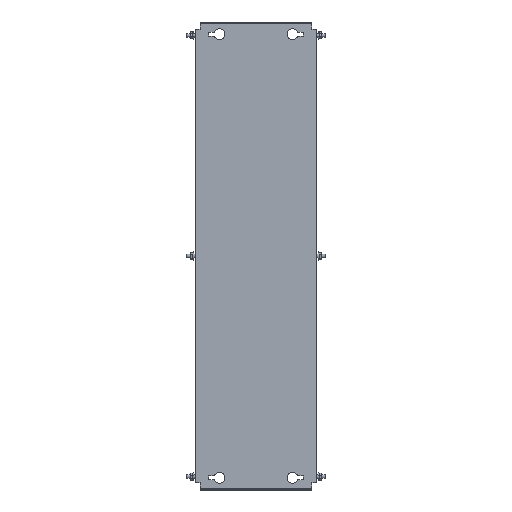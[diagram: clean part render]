
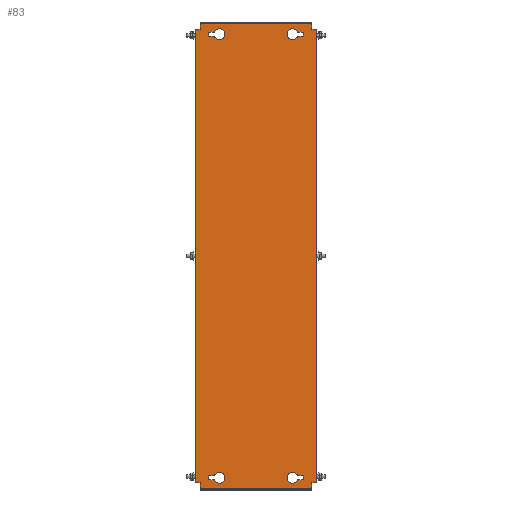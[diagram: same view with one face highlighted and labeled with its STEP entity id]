
A CAD part, top view. The second image highlights one B-rep face of the part: STEP entity #83.
In plain terms, the highlighted planar face has unit normal (0, 0, 1).
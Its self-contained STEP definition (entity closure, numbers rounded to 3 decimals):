
#83 = ADVANCED_FACE('',(#84,#119,#154,#316,#351),#386,.T.);
#84 = FACE_BOUND('',#85,.T.);
#85 = EDGE_LOOP('',(#86,#96,#104,#112));
#86 = ORIENTED_EDGE('',*,*,#87,.T.);
#87 = EDGE_CURVE('',#88,#90,#92,.T.);
#88 = VERTEX_POINT('',#89);
#89 = CARTESIAN_POINT('',(68.393,367.75,2.));
#90 = VERTEX_POINT('',#91);
#91 = CARTESIAN_POINT('',(78.,367.75,2.));
#92 = LINE('',#93,#94);
#93 = CARTESIAN_POINT('',(77.,367.75,2.));
#94 = VECTOR('',#95,1.);
#95 = DIRECTION('',(1.,0.,0.));
#96 = ORIENTED_EDGE('',*,*,#97,.T.);
#97 = EDGE_CURVE('',#90,#98,#100,.T.);
#98 = VERTEX_POINT('',#99);
#99 = CARTESIAN_POINT('',(78.,361.25,2.));
#100 = LINE('',#101,#102);
#101 = CARTESIAN_POINT('',(78.,367.75,2.));
#102 = VECTOR('',#103,1.);
#103 = DIRECTION('',(0.,-1.,0.));
#104 = ORIENTED_EDGE('',*,*,#105,.T.);
#105 = EDGE_CURVE('',#98,#106,#108,.T.);
#106 = VERTEX_POINT('',#107);
#107 = CARTESIAN_POINT('',(68.393,361.25,2.));
#108 = LINE('',#109,#110);
#109 = CARTESIAN_POINT('',(77.,361.25,2.));
#110 = VECTOR('',#111,1.);
#111 = DIRECTION('',(-1.,0.,0.));
#112 = ORIENTED_EDGE('',*,*,#113,.T.);
#113 = EDGE_CURVE('',#106,#88,#114,.T.);
#114 = CIRCLE('',#115,9.);
#115 = AXIS2_PLACEMENT_3D('',#116,#117,#118);
#116 = CARTESIAN_POINT('',(60.,364.5,2.));
#117 = DIRECTION('',(0.,0.,-1.));
#118 = DIRECTION('',(1.,0.,0.));
#119 = FACE_BOUND('',#120,.T.);
#120 = EDGE_LOOP('',(#121,#131,#139,#147));
#121 = ORIENTED_EDGE('',*,*,#122,.T.);
#122 = EDGE_CURVE('',#123,#125,#127,.T.);
#123 = VERTEX_POINT('',#124);
#124 = CARTESIAN_POINT('',(-68.393,-367.75,2.));
#125 = VERTEX_POINT('',#126);
#126 = CARTESIAN_POINT('',(-78.,-367.75,2.));
#127 = LINE('',#128,#129);
#128 = CARTESIAN_POINT('',(-77.,-367.75,2.));
#129 = VECTOR('',#130,1.);
#130 = DIRECTION('',(-1.,0.,0.));
#131 = ORIENTED_EDGE('',*,*,#132,.T.);
#132 = EDGE_CURVE('',#125,#133,#135,.T.);
#133 = VERTEX_POINT('',#134);
#134 = CARTESIAN_POINT('',(-78.,-361.25,2.));
#135 = LINE('',#136,#137);
#136 = CARTESIAN_POINT('',(-78.,-367.75,2.));
#137 = VECTOR('',#138,1.);
#138 = DIRECTION('',(0.,1.,0.));
#139 = ORIENTED_EDGE('',*,*,#140,.T.);
#140 = EDGE_CURVE('',#133,#141,#143,.T.);
#141 = VERTEX_POINT('',#142);
#142 = CARTESIAN_POINT('',(-68.393,-361.25,2.));
#143 = LINE('',#144,#145);
#144 = CARTESIAN_POINT('',(-77.,-361.25,2.));
#145 = VECTOR('',#146,1.);
#146 = DIRECTION('',(1.,-0.,-0.));
#147 = ORIENTED_EDGE('',*,*,#148,.T.);
#148 = EDGE_CURVE('',#141,#123,#149,.T.);
#149 = CIRCLE('',#150,9.);
#150 = AXIS2_PLACEMENT_3D('',#151,#152,#153);
#151 = CARTESIAN_POINT('',(-60.,-364.5,2.));
#152 = DIRECTION('',(0.,0.,-1.));
#153 = DIRECTION('',(-1.,0.,0.));
#154 = FACE_BOUND('',#155,.T.);
#155 = EDGE_LOOP('',(#156,#166,#174,#182,#190,#198,#206,#214,#222,#230,
    #238,#246,#254,#262,#270,#278,#286,#294,#302,#310));
#156 = ORIENTED_EDGE('',*,*,#157,.F.);
#157 = EDGE_CURVE('',#158,#160,#162,.T.);
#158 = VERTEX_POINT('',#159);
#159 = CARTESIAN_POINT('',(-97.4,372.5,2.));
#160 = VERTEX_POINT('',#161);
#161 = CARTESIAN_POINT('',(-92.,372.5,2.));
#162 = LINE('',#163,#164);
#163 = CARTESIAN_POINT('',(-98.,372.5,2.));
#164 = VECTOR('',#165,1.);
#165 = DIRECTION('',(1.,0.,-0.));
#166 = ORIENTED_EDGE('',*,*,#167,.T.);
#167 = EDGE_CURVE('',#158,#168,#170,.T.);
#168 = VERTEX_POINT('',#169);
#169 = CARTESIAN_POINT('',(-100.,372.5,2.));
#170 = LINE('',#171,#172);
#171 = CARTESIAN_POINT('',(-97.4,372.5,2.));
#172 = VECTOR('',#173,1.);
#173 = DIRECTION('',(-1.,0.,0.));
#174 = ORIENTED_EDGE('',*,*,#175,.F.);
#175 = EDGE_CURVE('',#176,#168,#178,.T.);
#176 = VERTEX_POINT('',#177);
#177 = CARTESIAN_POINT('',(-100.,-372.5,2.));
#178 = LINE('',#179,#180);
#179 = CARTESIAN_POINT('',(-100.,-382.5,2.));
#180 = VECTOR('',#181,1.);
#181 = DIRECTION('',(0.,1.,-0.));
#182 = ORIENTED_EDGE('',*,*,#183,.F.);
#183 = EDGE_CURVE('',#184,#176,#186,.T.);
#184 = VERTEX_POINT('',#185);
#185 = CARTESIAN_POINT('',(-97.4,-372.5,2.));
#186 = LINE('',#187,#188);
#187 = CARTESIAN_POINT('',(-92.,-372.5,2.));
#188 = VECTOR('',#189,1.);
#189 = DIRECTION('',(-1.,-0.,-0.));
#190 = ORIENTED_EDGE('',*,*,#191,.T.);
#191 = EDGE_CURVE('',#184,#192,#194,.T.);
#192 = VERTEX_POINT('',#193);
#193 = CARTESIAN_POINT('',(-92.,-372.5,2.));
#194 = LINE('',#195,#196);
#195 = CARTESIAN_POINT('',(-98.,-372.5,2.));
#196 = VECTOR('',#197,1.);
#197 = DIRECTION('',(1.,0.,-0.));
#198 = ORIENTED_EDGE('',*,*,#199,.T.);
#199 = EDGE_CURVE('',#192,#200,#202,.T.);
#200 = VERTEX_POINT('',#201);
#201 = CARTESIAN_POINT('',(-92.,-381.9,2.));
#202 = LINE('',#203,#204);
#203 = CARTESIAN_POINT('',(-92.,382.5,2.));
#204 = VECTOR('',#205,1.);
#205 = DIRECTION('',(0.,-1.,0.));
#206 = ORIENTED_EDGE('',*,*,#207,.T.);
#207 = EDGE_CURVE('',#200,#208,#210,.T.);
#208 = VERTEX_POINT('',#209);
#209 = CARTESIAN_POINT('',(-92.,-382.5,2.));
#210 = LINE('',#211,#212);
#211 = CARTESIAN_POINT('',(-92.,-381.9,2.));
#212 = VECTOR('',#213,1.);
#213 = DIRECTION('',(-0.,-1.,-0.));
#214 = ORIENTED_EDGE('',*,*,#215,.T.);
#215 = EDGE_CURVE('',#208,#216,#218,.T.);
#216 = VERTEX_POINT('',#217);
#217 = CARTESIAN_POINT('',(92.,-382.5,2.));
#218 = LINE('',#219,#220);
#219 = CARTESIAN_POINT('',(92.,-382.5,2.));
#220 = VECTOR('',#221,1.);
#221 = DIRECTION('',(1.,0.,0.));
#222 = ORIENTED_EDGE('',*,*,#223,.F.);
#223 = EDGE_CURVE('',#224,#216,#226,.T.);
#224 = VERTEX_POINT('',#225);
#225 = CARTESIAN_POINT('',(92.,-381.9,2.));
#226 = LINE('',#227,#228);
#227 = CARTESIAN_POINT('',(92.,-382.5,2.));
#228 = VECTOR('',#229,1.);
#229 = DIRECTION('',(0.,-1.,0.));
#230 = ORIENTED_EDGE('',*,*,#231,.T.);
#231 = EDGE_CURVE('',#224,#232,#234,.T.);
#232 = VERTEX_POINT('',#233);
#233 = CARTESIAN_POINT('',(92.,-372.5,2.));
#234 = LINE('',#235,#236);
#235 = CARTESIAN_POINT('',(92.,382.5,2.));
#236 = VECTOR('',#237,1.);
#237 = DIRECTION('',(0.,1.,-0.));
#238 = ORIENTED_EDGE('',*,*,#239,.F.);
#239 = EDGE_CURVE('',#240,#232,#242,.T.);
#240 = VERTEX_POINT('',#241);
#241 = CARTESIAN_POINT('',(97.4,-372.5,2.));
#242 = LINE('',#243,#244);
#243 = CARTESIAN_POINT('',(98.,-372.5,2.));
#244 = VECTOR('',#245,1.);
#245 = DIRECTION('',(-1.,0.,-0.));
#246 = ORIENTED_EDGE('',*,*,#247,.T.);
#247 = EDGE_CURVE('',#240,#248,#250,.T.);
#248 = VERTEX_POINT('',#249);
#249 = CARTESIAN_POINT('',(100.,-372.5,2.));
#250 = LINE('',#251,#252);
#251 = CARTESIAN_POINT('',(97.4,-372.5,2.));
#252 = VECTOR('',#253,1.);
#253 = DIRECTION('',(1.,0.,0.));
#254 = ORIENTED_EDGE('',*,*,#255,.F.);
#255 = EDGE_CURVE('',#256,#248,#258,.T.);
#256 = VERTEX_POINT('',#257);
#257 = CARTESIAN_POINT('',(100.,372.5,2.));
#258 = LINE('',#259,#260);
#259 = CARTESIAN_POINT('',(100.,-382.5,2.));
#260 = VECTOR('',#261,1.);
#261 = DIRECTION('',(0.,-1.,-0.));
#262 = ORIENTED_EDGE('',*,*,#263,.F.);
#263 = EDGE_CURVE('',#264,#256,#266,.T.);
#264 = VERTEX_POINT('',#265);
#265 = CARTESIAN_POINT('',(97.4,372.5,2.));
#266 = LINE('',#267,#268);
#267 = CARTESIAN_POINT('',(-92.,372.5,2.));
#268 = VECTOR('',#269,1.);
#269 = DIRECTION('',(1.,-0.,-0.));
#270 = ORIENTED_EDGE('',*,*,#271,.T.);
#271 = EDGE_CURVE('',#264,#272,#274,.T.);
#272 = VERTEX_POINT('',#273);
#273 = CARTESIAN_POINT('',(92.,372.5,2.));
#274 = LINE('',#275,#276);
#275 = CARTESIAN_POINT('',(98.,372.5,2.));
#276 = VECTOR('',#277,1.);
#277 = DIRECTION('',(-1.,0.,-0.));
#278 = ORIENTED_EDGE('',*,*,#279,.T.);
#279 = EDGE_CURVE('',#272,#280,#282,.T.);
#280 = VERTEX_POINT('',#281);
#281 = CARTESIAN_POINT('',(92.,381.9,2.));
#282 = LINE('',#283,#284);
#283 = CARTESIAN_POINT('',(92.,382.5,2.));
#284 = VECTOR('',#285,1.);
#285 = DIRECTION('',(0.,1.,-0.));
#286 = ORIENTED_EDGE('',*,*,#287,.T.);
#287 = EDGE_CURVE('',#280,#288,#290,.T.);
#288 = VERTEX_POINT('',#289);
#289 = CARTESIAN_POINT('',(92.,382.5,2.));
#290 = LINE('',#291,#292);
#291 = CARTESIAN_POINT('',(92.,381.9,2.));
#292 = VECTOR('',#293,1.);
#293 = DIRECTION('',(-0.,1.,-0.));
#294 = ORIENTED_EDGE('',*,*,#295,.T.);
#295 = EDGE_CURVE('',#288,#296,#298,.T.);
#296 = VERTEX_POINT('',#297);
#297 = CARTESIAN_POINT('',(-92.,382.5,2.));
#298 = LINE('',#299,#300);
#299 = CARTESIAN_POINT('',(-92.,382.5,2.));
#300 = VECTOR('',#301,1.);
#301 = DIRECTION('',(-1.,0.,0.));
#302 = ORIENTED_EDGE('',*,*,#303,.F.);
#303 = EDGE_CURVE('',#304,#296,#306,.T.);
#304 = VERTEX_POINT('',#305);
#305 = CARTESIAN_POINT('',(-92.,381.9,2.));
#306 = LINE('',#307,#308);
#307 = CARTESIAN_POINT('',(-92.,-382.5,2.));
#308 = VECTOR('',#309,1.);
#309 = DIRECTION('',(0.,1.,-0.));
#310 = ORIENTED_EDGE('',*,*,#311,.T.);
#311 = EDGE_CURVE('',#304,#160,#312,.T.);
#312 = LINE('',#313,#314);
#313 = CARTESIAN_POINT('',(-92.,382.5,2.));
#314 = VECTOR('',#315,1.);
#315 = DIRECTION('',(0.,-1.,0.));
#316 = FACE_BOUND('',#317,.T.);
#317 = EDGE_LOOP('',(#318,#328,#336,#344));
#318 = ORIENTED_EDGE('',*,*,#319,.F.);
#319 = EDGE_CURVE('',#320,#322,#324,.T.);
#320 = VERTEX_POINT('',#321);
#321 = CARTESIAN_POINT('',(78.,-361.25,2.));
#322 = VERTEX_POINT('',#323);
#323 = CARTESIAN_POINT('',(68.393,-361.25,2.));
#324 = LINE('',#325,#326);
#325 = CARTESIAN_POINT('',(68.393,-361.25,2.));
#326 = VECTOR('',#327,1.);
#327 = DIRECTION('',(-1.,0.,0.));
#328 = ORIENTED_EDGE('',*,*,#329,.F.);
#329 = EDGE_CURVE('',#330,#320,#332,.T.);
#330 = VERTEX_POINT('',#331);
#331 = CARTESIAN_POINT('',(78.,-367.75,2.));
#332 = LINE('',#333,#334);
#333 = CARTESIAN_POINT('',(78.,-361.25,2.));
#334 = VECTOR('',#335,1.);
#335 = DIRECTION('',(0.,1.,0.));
#336 = ORIENTED_EDGE('',*,*,#337,.F.);
#337 = EDGE_CURVE('',#338,#330,#340,.T.);
#338 = VERTEX_POINT('',#339);
#339 = CARTESIAN_POINT('',(68.393,-367.75,2.));
#340 = LINE('',#341,#342);
#341 = CARTESIAN_POINT('',(77.,-367.75,2.));
#342 = VECTOR('',#343,1.);
#343 = DIRECTION('',(1.,0.,0.));
#344 = ORIENTED_EDGE('',*,*,#345,.F.);
#345 = EDGE_CURVE('',#322,#338,#346,.T.);
#346 = CIRCLE('',#347,9.);
#347 = AXIS2_PLACEMENT_3D('',#348,#349,#350);
#348 = CARTESIAN_POINT('',(60.,-364.5,2.));
#349 = DIRECTION('',(0.,-0.,1.));
#350 = DIRECTION('',(1.,0.,0.));
#351 = FACE_BOUND('',#352,.T.);
#352 = EDGE_LOOP('',(#353,#363,#371,#379));
#353 = ORIENTED_EDGE('',*,*,#354,.F.);
#354 = EDGE_CURVE('',#355,#357,#359,.T.);
#355 = VERTEX_POINT('',#356);
#356 = CARTESIAN_POINT('',(-78.,361.25,2.));
#357 = VERTEX_POINT('',#358);
#358 = CARTESIAN_POINT('',(-68.393,361.25,2.));
#359 = LINE('',#360,#361);
#360 = CARTESIAN_POINT('',(-68.393,361.25,2.));
#361 = VECTOR('',#362,1.);
#362 = DIRECTION('',(1.,0.,0.));
#363 = ORIENTED_EDGE('',*,*,#364,.F.);
#364 = EDGE_CURVE('',#365,#355,#367,.T.);
#365 = VERTEX_POINT('',#366);
#366 = CARTESIAN_POINT('',(-78.,367.75,2.));
#367 = LINE('',#368,#369);
#368 = CARTESIAN_POINT('',(-78.,361.25,2.));
#369 = VECTOR('',#370,1.);
#370 = DIRECTION('',(0.,-1.,0.));
#371 = ORIENTED_EDGE('',*,*,#372,.F.);
#372 = EDGE_CURVE('',#373,#365,#375,.T.);
#373 = VERTEX_POINT('',#374);
#374 = CARTESIAN_POINT('',(-68.393,367.75,2.));
#375 = LINE('',#376,#377);
#376 = CARTESIAN_POINT('',(-77.,367.75,2.));
#377 = VECTOR('',#378,1.);
#378 = DIRECTION('',(-1.,0.,0.));
#379 = ORIENTED_EDGE('',*,*,#380,.F.);
#380 = EDGE_CURVE('',#357,#373,#381,.T.);
#381 = CIRCLE('',#382,9.);
#382 = AXIS2_PLACEMENT_3D('',#383,#384,#385);
#383 = CARTESIAN_POINT('',(-60.,364.5,2.));
#384 = DIRECTION('',(0.,-0.,1.));
#385 = DIRECTION('',(-1.,0.,0.));
#386 = PLANE('',#387);
#387 = AXIS2_PLACEMENT_3D('',#388,#389,#390);
#388 = CARTESIAN_POINT('',(-92.,-382.5,2.));
#389 = DIRECTION('',(-0.,0.,1.));
#390 = DIRECTION('',(1.,0.,0.));
